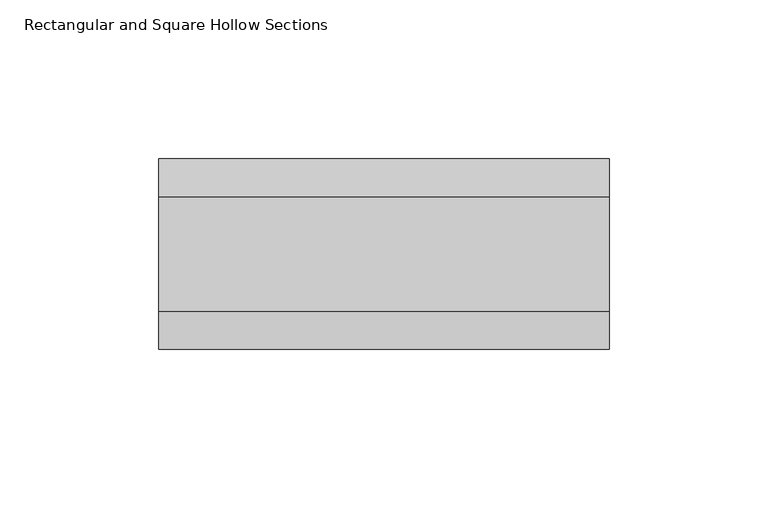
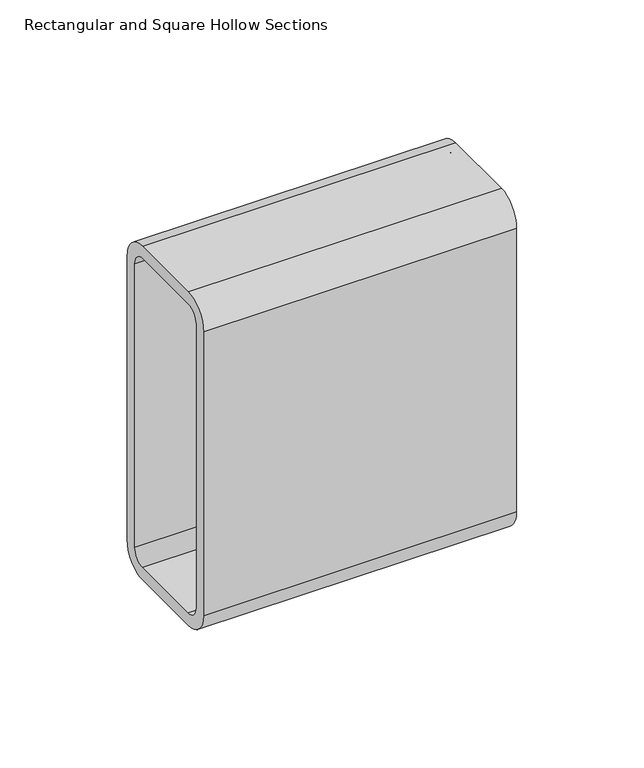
"""IFC4 building model written with IfcOpenShell, lengths in millimetres: beam geometry, Rectangular and Square Hollow Sections : TREC160x60x6."""

import ifcopenshell
import ifcopenshell.guid

model = None  # the IFC model being written
_history = None  # IfcOwnerHistory: only IFC2X3 demands one
_inside = {}  # id of a spatial element -> (the spatial element, [elements in it])
_under = {}  # id of a project, library or spatial element -> (it, [spatial elements below it])
_declared = {}  # id of a project -> (the project, [libraries it declares])
_typed = {}  # id of a type object -> (the type object, [elements of that type])
_made_of = {}  # id of a material, layer set ... -> (it, [elements and type objects made of it])


def new_model(schema):
    """Start an empty IFC model of exactly this schema.

    Asked for "IFC4X3", IfcOpenShell would pick the latest addendum, in which some entities
    have other attributes; the version numbers below select the first issue.
    IFC2X3 requires an IfcOwnerHistory on every rooted entity: one is made here for all.
    """
    global model, _history
    if schema == "IFC4X3":
        model = ifcopenshell.file(schema_version=(4, 3, 0, 0))
    else:
        model = ifcopenshell.file(schema=schema)
    _inside.clear()
    _under.clear()
    _declared.clear()
    _typed.clear()
    _made_of.clear()
    _history = None
    if model.schema == "IFC2X3":
        org = make("IfcOrganization", Name="unknown")
        user = make(
            "IfcPersonAndOrganization",
            ThePerson=make("IfcPerson", FamilyName="unknown"),
            TheOrganization=org,
        )
        app = make(
            "IfcApplication",
            ApplicationDeveloper=org,
            Version="unknown",
            ApplicationFullName="unknown",
            ApplicationIdentifier="unknown",
        )
        _history = make(
            "IfcOwnerHistory",
            OwningUser=user,
            OwningApplication=app,
            ChangeAction="ADDED",
            CreationDate=0,
        )
    return model


def make(cls, **values):
    """One entity of the class cls with the attributes given. An attribute that is None is left unset."""
    return model.create_entity(
        cls, **{name: value for name, value in values.items() if value is not None}
    )


def rooted(cls, **values):
    """An entity with a GlobalId (a new one), such as an element, a storey or a relation."""
    return make(cls, GlobalId=ifcopenshell.guid.new(), OwnerHistory=_history, **values)


def si_unit(unit_type, name, prefix=None):
    """IfcSIUnit, for example si_unit("LENGTHUNIT", "METRE", prefix="MILLI")."""
    return make("IfcSIUnit", UnitType=unit_type, Prefix=prefix, Name=name)


def assignment(units):
    """IfcUnitAssignment: the units of a project."""
    return None if units is None else make("IfcUnitAssignment", Units=units)


def point(xyz):
    """IfcCartesianPoint."""
    return None if xyz is None else make("IfcCartesianPoint", Coordinates=xyz)


def direction(xyz):
    """IfcDirection."""
    return None if xyz is None else make("IfcDirection", DirectionRatios=xyz)


def frame(location, z_axis=None, x_axis=None):
    """IfcAxis2Placement3D, a coordinate frame: its origin and axes. An axis left out is left unset."""
    return make(
        "IfcAxis2Placement3D",
        Location=point(location),
        Axis=direction(z_axis),
        RefDirection=direction(x_axis),
    )


def frame_2d(location, x_axis=None):
    """IfcAxis2Placement2D, a coordinate frame in the plane: its origin and x axis."""
    return make(
        "IfcAxis2Placement2D", Location=point(location), RefDirection=direction(x_axis)
    )


def origin():
    """The frame at (0, 0, 0) with its axes left unset."""
    return frame((0.0, 0.0, 0.0))


def place(relative_to, where):
    """IfcLocalPlacement: puts the frame where relative to a parent placement (None: the world)."""
    return make(
        "IfcLocalPlacement", PlacementRelTo=relative_to, RelativePlacement=where
    )


def context(
    kind, dimensions, precision=None, world=None, true_north=None, identifier=None
):
    """IfcGeometricRepresentationContext, for example the 3D "Model" context."""
    return make(
        "IfcGeometricRepresentationContext",
        ContextIdentifier=identifier,
        ContextType=kind,
        CoordinateSpaceDimension=dimensions,
        Precision=precision,
        WorldCoordinateSystem=world,
        TrueNorth=true_north,
    )


def project(units=None, contexts=None):
    """IfcProject with its units and contexts."""
    return rooted(
        "IfcProject",
        Name="project",
        RepresentationContexts=contexts,
        UnitsInContext=assignment(units),
    )


def spatial(cls, under=None, at=None, **own):
    """A site, building, storey or space (cls), placed at a placement, below another one or the project."""
    s = rooted(cls, ObjectPlacement=at, **own)
    if under is not None:
        _under.setdefault(under.id(), (under, []))[1].append(s)
    return s


def polyline(points):
    """IfcPolyline through the points."""
    return make("IfcPolyline", Points=[point(p) for p in points])


def circle_curve(where, radius):
    """IfcCircle in the frame where."""
    return make("IfcCircle", Position=where, Radius=radius)


def trimmed(basis, trim1, trim2, sense, master):
    """IfcTrimmedCurve: the piece of a basis curve between two trims."""
    return make(
        "IfcTrimmedCurve",
        BasisCurve=basis,
        Trim1=trim1,
        Trim2=trim2,
        SenseAgreement=sense,
        MasterRepresentation=master,
    )


def segment(curve, same_sense, transition):
    """IfcCompositeCurveSegment."""
    return make(
        "IfcCompositeCurveSegment",
        Transition=transition,
        SameSense=same_sense,
        ParentCurve=curve,
    )


def composite_curve(segments, self_intersect=None):
    """IfcCompositeCurve: segments joined end to end."""
    return make("IfcCompositeCurve", Segments=segments, SelfIntersect=self_intersect)


def outline(outer, holes=None, kind="AREA"):
    """IfcArbitraryClosedProfileDef: a profile drawn as a closed curve; with holes, ...WithVoids."""
    if holes is None:
        return make("IfcArbitraryClosedProfileDef", ProfileType=kind, OuterCurve=outer)
    return make(
        "IfcArbitraryProfileDefWithVoids",
        ProfileType=kind,
        OuterCurve=outer,
        InnerCurves=holes,
    )


def extrude(swept, where, along, depth):
    """IfcExtrudedAreaSolid: the profile swept, set in the frame where, extruded along a direction by depth."""
    return make(
        "IfcExtrudedAreaSolid",
        SweptArea=swept,
        Position=where,
        ExtrudedDirection=direction(along),
        Depth=depth,
    )


def shape(context_of_items, identifier, shape_type, items):
    """IfcShapeRepresentation: the items that make up one representation, for example the "Body"."""
    return make(
        "IfcShapeRepresentation",
        ContextOfItems=context_of_items,
        RepresentationIdentifier=identifier,
        RepresentationType=shape_type,
        Items=items,
    )


def source(mapping_origin, context_of_items, identifier, shape_type, items):
    """IfcRepresentationMap: a shape defined once, which mapped items show again and again."""
    return make(
        "IfcRepresentationMap",
        MappingOrigin=mapping_origin,
        MappedRepresentation=shape(context_of_items, identifier, shape_type, items),
    )


def transform(
    local_origin,
    x_axis=None,
    y_axis=None,
    z_axis=None,
    scale=None,
    scale2=None,
    scale3=None,
    uniform=True,
):
    """IfcCartesianTransformationOperator3D, or its non-uniform kind. x_axis, y_axis, z_axis: its Axis1, 2, 3."""
    if uniform:
        return make(
            "IfcCartesianTransformationOperator3D",
            Axis1=direction(x_axis),
            Axis2=direction(y_axis),
            LocalOrigin=point(local_origin),
            Scale=scale,
            Axis3=direction(z_axis),
        )
    return make(
        "IfcCartesianTransformationOperator3DnonUniform",
        Axis1=direction(x_axis),
        Axis2=direction(y_axis),
        LocalOrigin=point(local_origin),
        Scale=scale,
        Axis3=direction(z_axis),
        Scale2=scale2,
        Scale3=scale3,
    )


def mapped(mapping_source, mapping_target):
    """IfcMappedItem: shows the shape of a source again, moved by a transform."""
    return make(
        "IfcMappedItem", MappingSource=mapping_source, MappingTarget=mapping_target
    )


def made_of(thing, what):
    """Note that an element or type object is made of a material, layer set ...; save() writes the relation."""
    if what is not None:
        _made_of.setdefault(what.id(), (what, []))[1].append(thing)
    return thing


def element(
    cls,
    number,
    at=None,
    inside=None,
    cuts=None,
    type_object=None,
    material=None,
    context=None,
    identifier="Body",
    shape_type=None,
    held_by="IfcProductDefinitionShape",
    body=None,
    shapes=None,
    **own,
):
    """One element of the class cls, such as IfcWall. Its Tag is "e" and its number.

    at: its placement. inside: the storey or other place that contains it. cuts: it is an
    opening in that element (IfcRelVoidsElement). A single representation is given by context,
    identifier, shape_type and body (its items); several are given by shapes. held_by: the class
    of the entity that holds the representations. save() writes the other relations.
    """
    e = rooted(cls, Tag="e%d" % number, ObjectPlacement=at, **own)
    if body is not None:
        shapes = [shape(context, identifier, shape_type, body)]
    if shapes is not None:
        e.Representation = make(held_by, Representations=shapes)
    if inside is not None:
        _inside.setdefault(inside.id(), (inside, []))[1].append(e)
    if cuts is not None:
        rooted(
            "IfcRelVoidsElement", RelatingBuildingElement=cuts, RelatedOpeningElement=e
        )
    if type_object is not None:
        _typed.setdefault(type_object.id(), (type_object, []))[1].append(e)
    return made_of(e, material)


def aggregate(whole, parts):
    """IfcRelAggregates: a whole, such as a stair, and the parts it consists of."""
    return rooted("IfcRelAggregates", RelatingObject=whole, RelatedObjects=parts)


def save(model, path):
    """Write the relations noted so far, then the file.

    IfcRelAggregates (storeys below a building ...), IfcRelContainedInSpatialStructure (elements
    in a storey), IfcRelDefinesByType, IfcRelAssociatesMaterial and IfcRelDeclares: one each for
    every whole, place, type object, material and project.
    """
    for whole, parts in _under.values():
        aggregate(whole, parts)
    for where, things in _inside.values():
        rooted(
            "IfcRelContainedInSpatialStructure",
            RelatedElements=things,
            RelatingStructure=where,
        )
    for kind, things in _typed.values():
        rooted("IfcRelDefinesByType", RelatedObjects=things, RelatingType=kind)
    for what, things in _made_of.values():
        rooted("IfcRelAssociatesMaterial", RelatedObjects=things, RelatingMaterial=what)
    for by, libraries in _declared.values():
        rooted("IfcRelDeclares", RelatingContext=by, RelatedDefinitions=libraries)
    model.write(path)


def rectangular_and_square_hollow_sections_6862c1c7(model_context):
    return source(origin(), model_context, "Body", "SweptSolid", [
        extrude(outline(composite_curve([segment(polyline([(30.0, 68.0), (30.0, -68.0)]), True, "CONTINUOUS"), segment(trimmed(circle_curve(frame_2d((18.0, -68.0)), 12.0), [point((30.0, -68.0))], [point((18.0, -80.0))], False, "CARTESIAN"), True, "CONTINUOUS"), segment(polyline([(18.0, -80.0), (-18.0, -80.0)]), True, "CONTINUOUS"), segment(trimmed(circle_curve(frame_2d((-18.0, -68.0)), 12.0), [point((-18.0, -80.0))], [point((-30.0, -68.0))], False, "CARTESIAN"), True, "CONTINUOUS"), segment(polyline([(-30.0, -68.0), (-30.0, 68.0)]), True, "CONTINUOUS"), segment(trimmed(circle_curve(frame_2d((-18.0, 68.0)), 12.0), [point((-30.0, 68.0))], [point((-18.0, 80.0))], False, "CARTESIAN"), True, "CONTINUOUS"), segment(polyline([(-18.0, 80.0), (18.0, 80.0)]), True, "CONTINUOUS"), segment(trimmed(circle_curve(frame_2d((18.0, 68.0)), 12.0), [point((18.0, 80.0))], [point((30.0, 68.0))], False, "CARTESIAN"), True, "CONTINUOUS")], self_intersect=False), holes=[composite_curve([segment(trimmed(circle_curve(frame_2d((-18.0, 68.0)), 6.0), [point((-18.0, 74.0))], [point((-24.0, 68.0))], True, "CARTESIAN"), True, "CONTINUOUS"), segment(polyline([(-24.0, 68.0), (-24.0, -68.0)]), True, "CONTINUOUS"), segment(trimmed(circle_curve(frame_2d((-18.0, -68.0)), 6.0), [point((-24.0, -68.0))], [point((-18.0, -74.0))], True, "CARTESIAN"), True, "CONTINUOUS"), segment(polyline([(-18.0, -74.0), (18.0, -74.0)]), True, "CONTINUOUS"), segment(trimmed(circle_curve(frame_2d((18.0, -68.0)), 6.0), [point((18.0, -74.0))], [point((24.0, -68.0))], True, "CARTESIAN"), True, "CONTINUOUS"), segment(polyline([(24.0, -68.0), (24.0, 68.0)]), True, "CONTINUOUS"), segment(trimmed(circle_curve(frame_2d((18.0, 68.0)), 6.0), [point((24.0, 68.0))], [point((18.0, 74.0))], True, "CARTESIAN"), True, "CONTINUOUS"), segment(polyline([(18.0, 74.0), (-18.0, 74.0)]), True, "CONTINUOUS")], self_intersect=False)]), frame((-64.5, 0.0, 0.0), z_axis=(1.0, 0.0, 0.0), x_axis=(0.0, 1.0, 0.0)), (0.0, 0.0, 1.0), 142.0),
    ])


if __name__ == "__main__":
    model = new_model("IFC4")
    model_context = context("Model", 3, world=origin())
    ifc_project = project(units=[si_unit("LENGTHUNIT", "METRE", prefix="MILLI")], contexts=[model_context])
    site = spatial("IfcSite", under=ifc_project)
    building = spatial("IfcBuilding", under=site)
    placement = place(None, origin())
    rectangular_and_square_hollow_sections_shape = rectangular_and_square_hollow_sections_6862c1c7(model_context)
    element("IfcBeam", 1, ObjectType="Rectangular and Square Hollow Sections : TREC160x60x6", at=placement, inside=building, context=model_context, shape_type="MappedRepresentation", body=[
        mapped(rectangular_and_square_hollow_sections_shape, transform((0.0, 0.0, 0.0), x_axis=(1.0, 0.0, 0.0), y_axis=(0.0, 1.0, 0.0), z_axis=(0.0, 0.0, 1.0))),
    ])
    save(model, "model.ifc")
